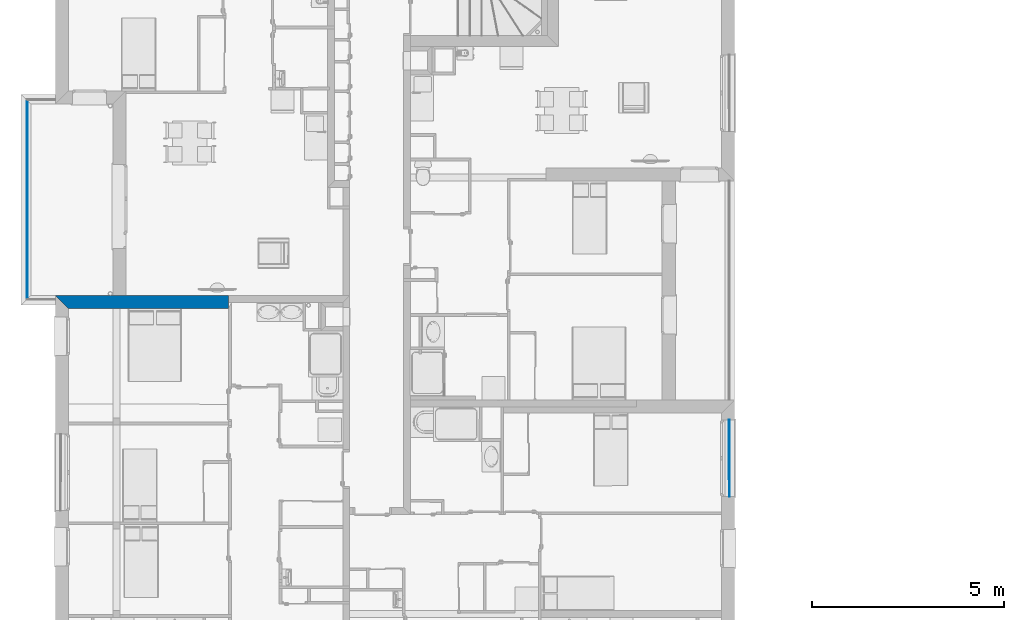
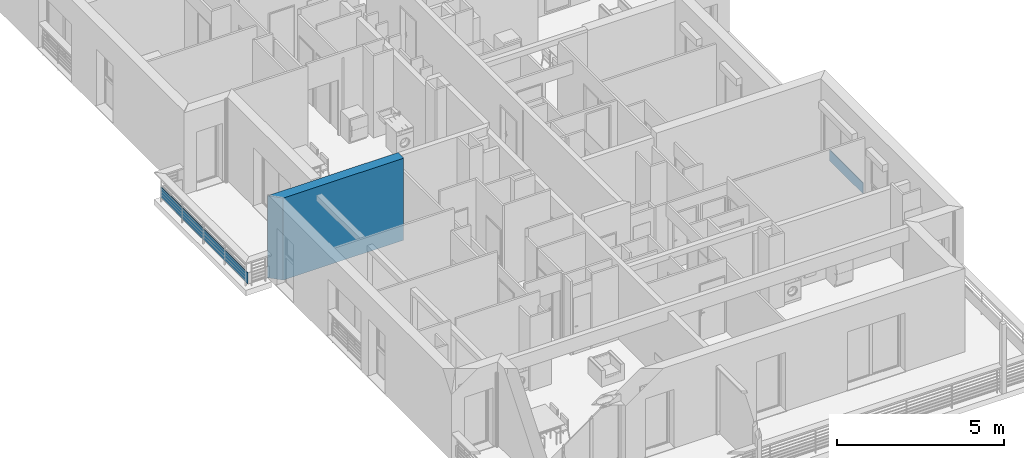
# One storey, part 20 of 165: 3 walls.
"""IFC2X3 building model written with IfcOpenShell, lengths in millimetres."""

from ifc_helpers import new_model, entity, si_unit, converted_unit, derived_unit, money_unit, direction, frame, origin_with_axes, place, context, subcontext, project, spatial, polyline, outline, extrude, material, layer, layer_set, layer_usage, type_object, element, save


model = new_model("IFC2X3")

# Units and contexts
model_context = context("Model", 3, precision=0.01, world=origin_with_axes(), true_north=direction((0.0, 1.0)))
body_context = subcontext(model_context, "Body", "Model", "MODEL_VIEW")
ifc_project = project(units=[si_unit("LENGTHUNIT", "METRE", prefix="MILLI"), si_unit("AREAUNIT", "SQUARE_METRE"), si_unit("VOLUMEUNIT", "CUBIC_METRE"), converted_unit("PLANEANGLEUNIT", "DEGREE", entity("IfcPlaneAngleMeasure", 0.0174532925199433), si_unit("PLANEANGLEUNIT", "RADIAN"), dimensions=[0, 0, 0, 0, 0, 0, 0]), money_unit("USD"), converted_unit("TIMEUNIT", "Year", entity("IfcTimeMeasure", 31557600.0), si_unit("TIMEUNIT", "SECOND"), dimensions=[0, 0, 1, 0, 0, 0, 0]), si_unit("MASSUNIT", "GRAM", prefix="KILO"), si_unit("THERMODYNAMICTEMPERATUREUNIT", "DEGREE_CELSIUS"), si_unit("LUMINOUSINTENSITYUNIT", "LUMEN"), si_unit("ENERGYUNIT", "JOULE", prefix="MEGA"), derived_unit("THERMALCONDUCTANCEUNIT", [(si_unit("POWERUNIT", "WATT"), 1), (si_unit("LENGTHUNIT", "METRE"), -1), (si_unit("THERMODYNAMICTEMPERATUREUNIT", "KELVIN"), -1)]), derived_unit("SPECIFICHEATCAPACITYUNIT", [(si_unit("ENERGYUNIT", "JOULE"), 1), (si_unit("MASSUNIT", "GRAM", prefix="KILO"), -1), (si_unit("THERMODYNAMICTEMPERATUREUNIT", "KELVIN"), -1)]), derived_unit("MASSDENSITYUNIT", [(si_unit("MASSUNIT", "GRAM", prefix="KILO"), 1), (si_unit("VOLUMEUNIT", "CUBIC_METRE"), -1)])], contexts=[model_context])

# Site, building, storey
site_placement = place(None, origin_with_axes())
site = spatial("IfcSite", under=ifc_project, at=site_placement, Name="Site", CompositionType="ELEMENT")
building_placement = place(site_placement, origin_with_axes())
building = spatial("IfcBuilding", under=site, at=building_placement, Name="Bâtiment", CompositionType="ELEMENT")
storey_placement = place(building_placement, frame((0.0, 0.0, 8500.0), z_axis=(0.0, 0.0, 1.0), x_axis=(1.0, 0.0, 0.0)))
storey = spatial("IfcBuildingStorey", under=building, at=storey_placement, Name="Etage 2", CompositionType="ELEMENT", Elevation=8500.0)

# Walls
ifc_material_1 = material(Name="MANQUANT")
ifc_layer_1 = layer(ifc_material_1, 20.0, ventilated="UNKNOWN")
ifc_layer_set_1 = layer_set([ifc_layer_1], Name="MANQUANT 20")
ifc_layer_usage_1 = layer_usage(ifc_layer_set_1, "AXIS2", "NEGATIVE", 20.0)
wall_type_1 = type_object("IfcWallType", Name="MANQUANT 20", PredefinedType="NOTDEFINED")
wall_1_placement = place(storey_placement, frame((2234229.085282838, -649259.9675378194, 99.99999999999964), z_axis=(0.0, 0.0, 1.0), x_axis=(-0.0007973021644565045, 0.9999996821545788, 0.0)))
element("IfcWallStandardCase", 1, at=wall_1_placement, inside=storey, type_object=wall_type_1, material=ifc_layer_usage_1, Name="Mur-150", context=body_context, shape_type="SweptSolid", body=[
    extrude(outline(polyline([(0.0, 0.0), (1999.99999989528, 0.0), (1999.999999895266, 19.99999999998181), (0.0, 20.0000000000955), (0.0, 0.0)])), origin_with_axes(), (0.0, 0.0, 1.0), 400.0),
])
ifc_layer_usage_2 = layer_usage(ifc_layer_set_1, "AXIS2", "NEGATIVE", 20.0)
wall_2_placement = place(storey_placement, frame((2215889.23334483, -638897.6186565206, 99.99999999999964), z_axis=(0.0, 0.0, 1.0), x_axis=(0.0, -1.0, 0.0)))
element("IfcWallStandardCase", 2, at=wall_2_placement, inside=storey, type_object=wall_type_1, material=ifc_layer_usage_2, Name="Mur-184", context=body_context, shape_type="SweptSolid", body=[
    extrude(outline(polyline([(0.0, 0.0), (5233.315532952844, 0.0), (5213.315532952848, 19.99999999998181), (19.99999999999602, 19.99999999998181), (0.0, 0.0)])), origin_with_axes(), (0.0, 0.0, 1.0), 400.0),
])
ifc_material_2 = material(Name="Parpaing 312445824")
ifc_layer_2 = layer(ifc_material_2, 180.0, ventilated="UNKNOWN")
ifc_material_3 = material(Name="Isolant styromousse 301821074")
ifc_layer_3 = layer(ifc_material_3, 160.0, ventilated="UNKNOWN")
ifc_layer_set_2 = layer_set([ifc_layer_2, ifc_layer_3], Name="isol int 18+16 0018356637")
ifc_layer_usage_3 = layer_usage(ifc_layer_set_2, "AXIS2", "NEGATIVE", 0.0)
wall_type_2 = type_object("IfcWallType", Name="isol int 18+16 0018356637 340", PredefinedType="NOTDEFINED")
wall_3_placement = place(storey_placement, frame((2216634.233344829, -644016.3765232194, 0.0), z_axis=(0.0, 0.0, 1.0), x_axis=(1.0, 1.263819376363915e-08, 0.0)))
element("IfcWallStandardCase", 3, at=wall_3_placement, inside=storey, type_object=wall_type_2, material=ifc_layer_usage_3, Name="Mur-143", context=body_context, shape_type="SweptSolid", body=[
    extrude(outline(polyline([(339.9999955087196, -340.0000000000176), (4518.117824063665, -340.0000000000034), (4518.117822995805, 0.0), (7.958078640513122e-10, 0.0), (339.9999955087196, -340.0000000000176)])), origin_with_axes(), (0.0, 0.0, 1.0), 3000.0),
])

save(model, "model.ifc")
